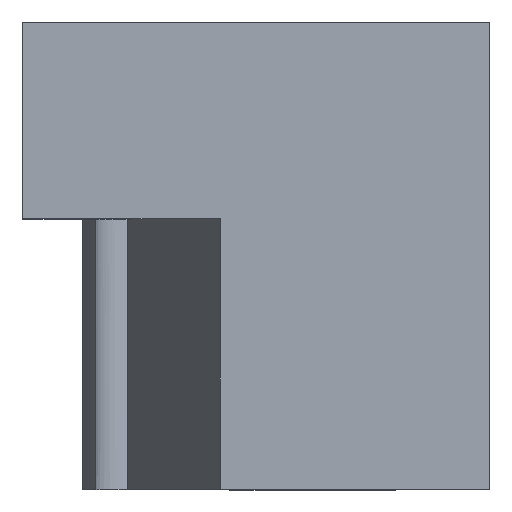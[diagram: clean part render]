
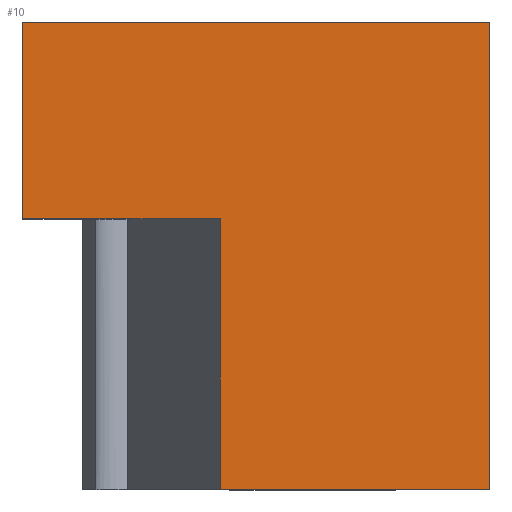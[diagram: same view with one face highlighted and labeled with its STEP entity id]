
A CAD part, top view. The second image highlights one B-rep face of the part: STEP entity #10.
In plain terms, the highlighted planar face has unit normal (0, 0, 1).
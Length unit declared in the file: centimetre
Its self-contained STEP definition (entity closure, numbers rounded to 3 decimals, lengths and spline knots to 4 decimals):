
#1 = VERTEX_POINT ( 'NONE', #336 ) ;
#10 = ADVANCED_FACE ( 'NONE', ( #383 ), #564, .T. ) ;
#11 = ORIENTED_EDGE ( 'NONE', *, *, #378, .T. ) ;
#28 = CARTESIAN_POINT ( 'NONE',  ( 0., 1000., 1000. ) ) ;
#76 = LINE ( 'NONE', #538, #279 ) ;
#89 = EDGE_CURVE ( 'NONE', #193, #497, #76, .T. ) ;
#94 = CARTESIAN_POINT ( 'NONE',  ( 0., 578.8936, 1000. ) ) ;
#111 = ORIENTED_EDGE ( 'NONE', *, *, #429, .T. ) ;
#114 = ORIENTED_EDGE ( 'NONE', *, *, #490, .T. ) ;
#123 = ORIENTED_EDGE ( 'NONE', *, *, #146, .T. ) ;
#136 = LINE ( 'NONE', #232, #238 ) ;
#142 = VERTEX_POINT ( 'NONE', #585 ) ;
#145 = CARTESIAN_POINT ( 'NONE',  ( 0., 0., 1000. ) ) ;
#146 = EDGE_CURVE ( 'NONE', #1, #352, #370, .T. ) ;
#147 = VECTOR ( 'NONE', #357, 100. ) ;
#193 = VERTEX_POINT ( 'NONE', #593 ) ;
#212 = LINE ( 'NONE', #260, #340 ) ;
#221 = CARTESIAN_POINT ( 'NONE',  ( 0., 1000., 1000. ) ) ;
#232 = CARTESIAN_POINT ( 'NONE',  ( 423.7907, 578.8936, 1000. ) ) ;
#235 = CARTESIAN_POINT ( 'NONE',  ( 1000., 0., 1000. ) ) ;
#238 = VECTOR ( 'NONE', #278, 100. ) ;
#257 = AXIS2_PLACEMENT_3D ( 'NONE', #145, #520, #424 ) ;
#260 = CARTESIAN_POINT ( 'NONE',  ( 1000., 1000., 1000. ) ) ;
#268 = DIRECTION ( 'NONE',  ( 1., 0., 0. ) ) ;
#278 = DIRECTION ( 'NONE',  ( 0., -1., 0. ) ) ;
#279 = VECTOR ( 'NONE', #268, 100. ) ;
#327 = ORIENTED_EDGE ( 'NONE', *, *, #89, .T. ) ;
#336 = CARTESIAN_POINT ( 'NONE',  ( 1000., 1000., 1000. ) ) ;
#340 = VECTOR ( 'NONE', #458, 100. ) ;
#352 = VERTEX_POINT ( 'NONE', #28 ) ;
#357 = DIRECTION ( 'NONE',  ( 0., -1., 0. ) ) ;
#360 = DIRECTION ( 'NONE',  ( -1., 0., 0. ) ) ;
#370 = LINE ( 'NONE', #221, #493 ) ;
#378 = EDGE_CURVE ( 'NONE', #497, #1, #212, .T. ) ;
#383 = FACE_OUTER_BOUND ( 'NONE', #575, .T. ) ;
#417 = VERTEX_POINT ( 'NONE', #494 ) ;
#424 = DIRECTION ( 'NONE',  ( 1., 0., 0. ) ) ;
#429 = EDGE_CURVE ( 'NONE', #352, #417, #542, .T. ) ;
#458 = DIRECTION ( 'NONE',  ( 0., 1., 0. ) ) ;
#475 = VECTOR ( 'NONE', #513, 100. ) ;
#490 = EDGE_CURVE ( 'NONE', #142, #193, #136, .T. ) ;
#493 = VECTOR ( 'NONE', #360, 100. ) ;
#494 = CARTESIAN_POINT ( 'NONE',  ( 0., 578.8936, 1000. ) ) ;
#497 = VERTEX_POINT ( 'NONE', #235 ) ;
#513 = DIRECTION ( 'NONE',  ( -1., 0., 0. ) ) ;
#519 = LINE ( 'NONE', #94, #475 ) ;
#520 = DIRECTION ( 'NONE',  ( 0., 0., 1. ) ) ;
#523 = EDGE_CURVE ( 'NONE', #142, #417, #519, .T. ) ;
#538 = CARTESIAN_POINT ( 'NONE',  ( 0., 0., 1000. ) ) ;
#542 = LINE ( 'NONE', #583, #147 ) ;
#564 = PLANE ( 'NONE',  #257 ) ;
#572 = ORIENTED_EDGE ( 'NONE', *, *, #523, .F. ) ;
#575 = EDGE_LOOP ( 'NONE', ( #114, #327, #11, #123, #111, #572 ) ) ;
#583 = CARTESIAN_POINT ( 'NONE',  ( 0., 1000., 1000. ) ) ;
#585 = CARTESIAN_POINT ( 'NONE',  ( 423.7907, 578.8936, 1000. ) ) ;
#593 = CARTESIAN_POINT ( 'NONE',  ( 423.7907, 0., 1000. ) ) ;
